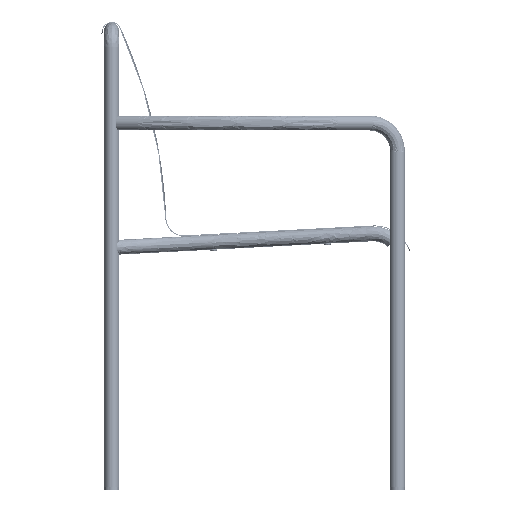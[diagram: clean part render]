
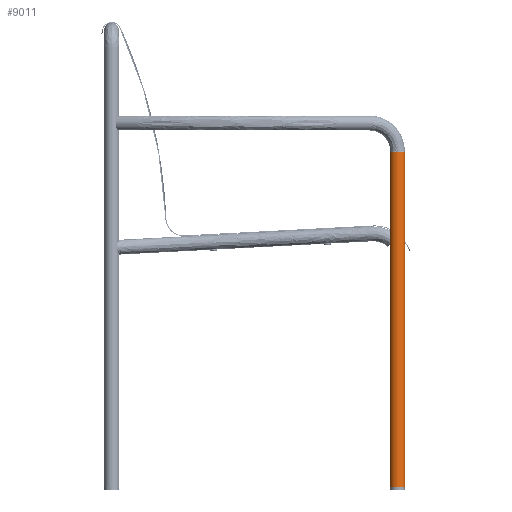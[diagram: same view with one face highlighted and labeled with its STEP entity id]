
A CAD part, left-side view. The second image highlights one B-rep face of the part: STEP entity #9011.
In plain terms, the highlighted cylindrical face has radius 12.7 mm (diameter 25.4 mm), a partial arc.
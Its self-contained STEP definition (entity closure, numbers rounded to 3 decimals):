
#9011=ADVANCED_FACE('',(#13941),#99311,.T.);
#13941=FACE_OUTER_BOUND('',#23063,.T.);
#23063=EDGE_LOOP('',(#51312,#51313,#51314,#51315));
#51312=ORIENTED_EDGE('',*,*,#66172,.F.);
#51313=ORIENTED_EDGE('',*,*,#66150,.F.);
#51314=ORIENTED_EDGE('',*,*,#66174,.F.);
#51315=ORIENTED_EDGE('',*,*,#66180,.T.);
#66150=EDGE_CURVE('',#94610,#94611,#70794,.T.);
#66172=EDGE_CURVE('',#94611,#94626,#85266,.T.);
#66174=EDGE_CURVE('',#94627,#94610,#85267,.T.);
#66180=EDGE_CURVE('',#94627,#94626,#70812,.T.);
#70794=TRIMMED_CURVE($,#75192,(#431867),(#431868),.T.,.CARTESIAN.);
#70812=TRIMMED_CURVE($,#75210,(#431945),(#431946),.T.,.CARTESIAN.);
#75192=CIRCLE('',#106150,12.7);
#75210=CIRCLE('',#106168,12.7);
#85266=B_SPLINE_CURVE_WITH_KNOTS('',1,(#431924,#431925),.UNSPECIFIED.,.F.,
 .F.,(2,2),(0.,573.3),.UNSPECIFIED.);
#85267=B_SPLINE_CURVE_WITH_KNOTS('',1,(#431929,#431930),.UNSPECIFIED.,.F.,
 .F.,(2,2),(0.,573.3),.UNSPECIFIED.);
#94610=VERTEX_POINT('',#431822);
#94611=VERTEX_POINT('',#431823);
#94626=VERTEX_POINT('',#431838);
#94627=VERTEX_POINT('',#431839);
#99311=CYLINDRICAL_SURFACE('',#106135,12.7);
#106135=AXIS2_PLACEMENT_3D('',#431483,#116927,$);
#106150=AXIS2_PLACEMENT_3D($,#431866,#116950,#116951);
#106168=AXIS2_PLACEMENT_3D($,#431944,#116986,#116987);
#116927=DIRECTION('',(0.,0.,-1.));
#116950=DIRECTION('',(0.,0.,1.));
#116951=DIRECTION('',(-0.261,0.965,0.));
#116986=DIRECTION('',(0.,0.,1.));
#116987=DIRECTION('',(-0.261,0.965,0.));
#431483=CARTESIAN_POINT('',(-1239.8,770.351,288.008));
#431822=CARTESIAN_POINT('',(-1243.118,782.61,574.658));
#431823=CARTESIAN_POINT('',(-1236.482,758.092,574.658));
#431838=CARTESIAN_POINT('',(-1236.482,758.092,1.358));
#431839=CARTESIAN_POINT('',(-1243.118,782.61,1.358));
#431866=CARTESIAN_POINT('',(-1239.8,770.351,574.658));
#431867=CARTESIAN_POINT('',(-1243.118,782.61,574.658));
#431868=CARTESIAN_POINT('',(-1236.482,758.092,574.658));
#431924=CARTESIAN_POINT('',(-1236.482,758.092,574.658));
#431925=CARTESIAN_POINT('',(-1236.482,758.092,1.358));
#431929=CARTESIAN_POINT('',(-1243.118,782.61,1.358));
#431930=CARTESIAN_POINT('',(-1243.118,782.61,574.658));
#431944=CARTESIAN_POINT('',(-1239.8,770.351,1.358));
#431945=CARTESIAN_POINT('',(-1243.118,782.61,1.358));
#431946=CARTESIAN_POINT('',(-1236.482,758.092,1.358));
